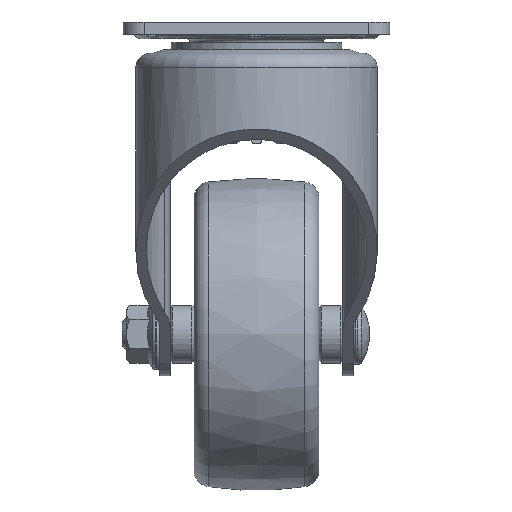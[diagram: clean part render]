
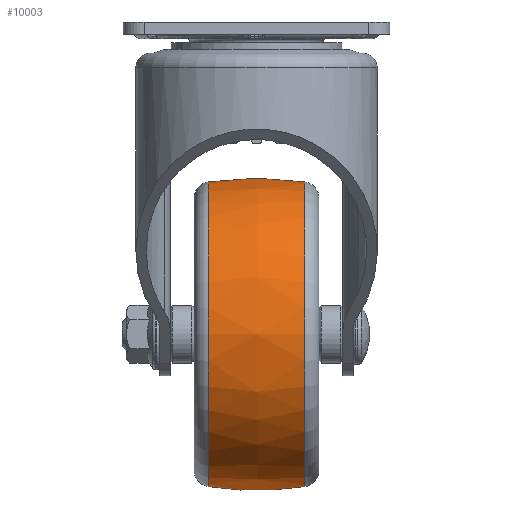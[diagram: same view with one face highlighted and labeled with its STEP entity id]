
A CAD part, left-side view. The second image highlights one B-rep face of the part: STEP entity #10003.
In plain terms, the highlighted free-form (B-spline) face has degree [2, 2] with [3, 9] control points.
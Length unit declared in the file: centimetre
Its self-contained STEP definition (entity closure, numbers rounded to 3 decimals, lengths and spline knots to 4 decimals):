
#35=(
BOUNDED_CURVE()
B_SPLINE_CURVE(2,(#21878,#21879,#21880),.UNSPECIFIED.,.F.,.F.)
B_SPLINE_CURVE_WITH_KNOTS((3,3),(-0.1556,0.1556),
 .UNSPECIFIED.)
CURVE()
GEOMETRIC_REPRESENTATION_ITEM()
RATIONAL_B_SPLINE_CURVE((1.,0.988,1.))
REPRESENTATION_ITEM('')
);
#59=(
BOUNDED_SURFACE()
B_SPLINE_SURFACE(2,2,((#21850,#21851,#21852,#21853,#21854,#21855,#21856,
#21857,#21858),(#21859,#21860,#21861,#21862,#21863,#21864,#21865,#21866,
#21867),(#21868,#21869,#21870,#21871,#21872,#21873,#21874,#21875,#21876)),
 .UNSPECIFIED.,.F.,.T.,.F.)
B_SPLINE_SURFACE_WITH_KNOTS((3,3),(3,2,2,2,3),(-0.1556,0.1556),
(-3.1416,-1.5708,0.,1.5708,3.1416),
 .UNSPECIFIED.)
GEOMETRIC_REPRESENTATION_ITEM()
RATIONAL_B_SPLINE_SURFACE(((1.,0.707,1.,0.707,1.,
0.707,1.,0.707,1.),(0.988,0.699,
0.988,0.699,0.988,0.699,
0.988,0.699,0.988),(1.,0.707,
1.,0.707,1.,0.707,1.,0.707,1.)))
REPRESENTATION_ITEM('')
SURFACE()
);
#2560=FACE_OUTER_BOUND('',#3300,.T.);
#3300=EDGE_LOOP('',(#8722,#8723,#8724,#8725,#8726,#8727));
#3939=CIRCLE('',#11161,3.6594);
#3940=CIRCLE('',#11162,3.6594);
#3941=CIRCLE('',#11163,3.6594);
#3942=CIRCLE('',#11164,3.6594);
#4801=VERTEX_POINT('',#21846);
#4802=VERTEX_POINT('',#21847);
#4803=VERTEX_POINT('',#21877);
#4804=VERTEX_POINT('',#21881);
#6118=EDGE_CURVE('',#4801,#4802,#3939,.T.);
#6119=EDGE_CURVE('',#4802,#4801,#3940,.T.);
#6120=EDGE_CURVE('',#4802,#4803,#35,.T.);
#6121=EDGE_CURVE('',#4803,#4804,#3941,.T.);
#6122=EDGE_CURVE('',#4804,#4803,#3942,.T.);
#8722=ORIENTED_EDGE('',*,*,#6118,.F.);
#8723=ORIENTED_EDGE('',*,*,#6119,.F.);
#8724=ORIENTED_EDGE('',*,*,#6120,.T.);
#8725=ORIENTED_EDGE('',*,*,#6121,.T.);
#8726=ORIENTED_EDGE('',*,*,#6122,.T.);
#8727=ORIENTED_EDGE('',*,*,#6120,.F.);
#10003=ADVANCED_FACE('',(#2560),#59,.F.);
#11161=AXIS2_PLACEMENT_3D('',#21848,#14007,#14008);
#11162=AXIS2_PLACEMENT_3D('',#21849,#14009,#14010);
#11163=AXIS2_PLACEMENT_3D('',#21882,#14011,#14012);
#11164=AXIS2_PLACEMENT_3D('',#21883,#14013,#14014);
#14007=DIRECTION('center_axis',(0.,1.,0.));
#14008=DIRECTION('ref_axis',(0.,0.,1.));
#14009=DIRECTION('center_axis',(0.,1.,0.));
#14010=DIRECTION('ref_axis',(0.,0.,1.));
#14011=DIRECTION('center_axis',(0.,1.,0.));
#14012=DIRECTION('ref_axis',(0.,0.,1.));
#14013=DIRECTION('center_axis',(0.,1.,0.));
#14014=DIRECTION('ref_axis',(0.,0.,1.));
#21846=CARTESIAN_POINT('',(3.4989,1.378,0.4094));
#21847=CARTESIAN_POINT('',(3.4989,1.378,-6.9094));
#21848=CARTESIAN_POINT('Origin',(3.4989,1.378,-3.25));
#21849=CARTESIAN_POINT('Origin',(3.4989,1.378,-3.25));
#21850=CARTESIAN_POINT('Ctrl Pts',(3.4989,-0.946,
-6.9094));
#21851=CARTESIAN_POINT('Ctrl Pts',(-0.1605,-0.946,
-6.9094));
#21852=CARTESIAN_POINT('Ctrl Pts',(-0.1605,-0.946,
-3.25));
#21853=CARTESIAN_POINT('Ctrl Pts',(-0.1605,-0.946,
0.4094));
#21854=CARTESIAN_POINT('Ctrl Pts',(3.4989,-0.946,
0.4094));
#21855=CARTESIAN_POINT('Ctrl Pts',(7.1584,-0.946,
0.4094));
#21856=CARTESIAN_POINT('Ctrl Pts',(7.1584,-0.946,
-3.25));
#21857=CARTESIAN_POINT('Ctrl Pts',(7.1584,-0.946,
-6.9094));
#21858=CARTESIAN_POINT('Ctrl Pts',(3.4989,-0.946,
-6.9094));
#21859=CARTESIAN_POINT('Ctrl Pts',(3.4989,0.216,-7.0917));
#21860=CARTESIAN_POINT('Ctrl Pts',(-0.3427,0.216,
-7.0917));
#21861=CARTESIAN_POINT('Ctrl Pts',(-0.3427,0.216,
-3.25));
#21862=CARTESIAN_POINT('Ctrl Pts',(-0.3427,0.216,
0.5917));
#21863=CARTESIAN_POINT('Ctrl Pts',(3.4989,0.216,0.5917));
#21864=CARTESIAN_POINT('Ctrl Pts',(7.3406,0.216,0.5917));
#21865=CARTESIAN_POINT('Ctrl Pts',(7.3406,0.216,-3.25));
#21866=CARTESIAN_POINT('Ctrl Pts',(7.3406,0.216,-7.0917));
#21867=CARTESIAN_POINT('Ctrl Pts',(3.4989,0.216,-7.0917));
#21868=CARTESIAN_POINT('Ctrl Pts',(3.4989,1.378,-6.9094));
#21869=CARTESIAN_POINT('Ctrl Pts',(-0.1605,1.378,
-6.9094));
#21870=CARTESIAN_POINT('Ctrl Pts',(-0.1605,1.378,
-3.25));
#21871=CARTESIAN_POINT('Ctrl Pts',(-0.1605,1.378,
0.4094));
#21872=CARTESIAN_POINT('Ctrl Pts',(3.4989,1.378,0.4094));
#21873=CARTESIAN_POINT('Ctrl Pts',(7.1584,1.378,0.4094));
#21874=CARTESIAN_POINT('Ctrl Pts',(7.1584,1.378,-3.25));
#21875=CARTESIAN_POINT('Ctrl Pts',(7.1584,1.378,-6.9094));
#21876=CARTESIAN_POINT('Ctrl Pts',(3.4989,1.378,-6.9094));
#21877=CARTESIAN_POINT('',(3.4989,-0.946,-6.9094));
#21878=CARTESIAN_POINT('Ctrl Pts',(3.4989,1.378,-6.9094));
#21879=CARTESIAN_POINT('Ctrl Pts',(3.4989,0.216,-7.0917));
#21880=CARTESIAN_POINT('Ctrl Pts',(3.4989,-0.946,
-6.9094));
#21881=CARTESIAN_POINT('',(3.4989,-0.946,0.4094));
#21882=CARTESIAN_POINT('Origin',(3.4989,-0.946,-3.25));
#21883=CARTESIAN_POINT('Origin',(3.4989,-0.946,-3.25));
